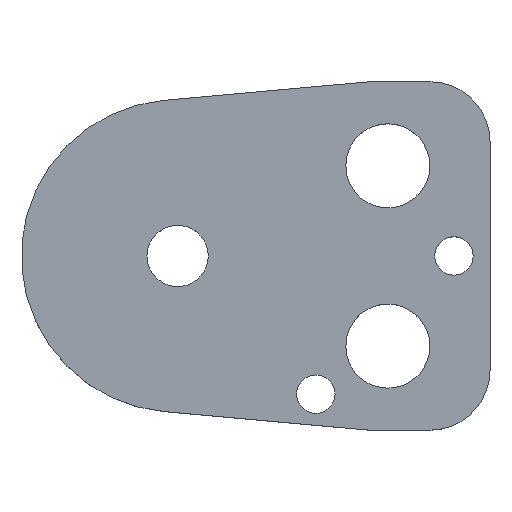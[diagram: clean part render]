
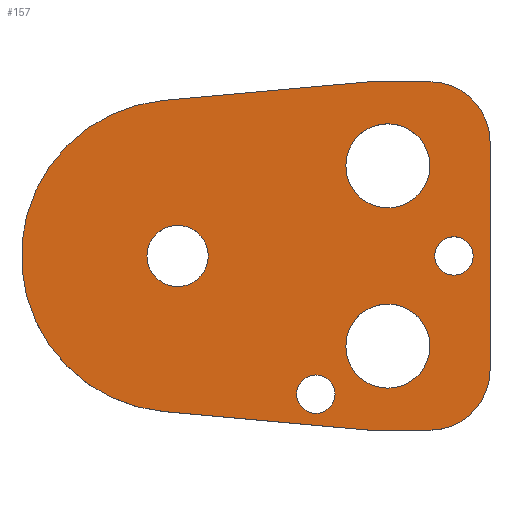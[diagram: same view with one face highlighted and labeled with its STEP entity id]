
A CAD part, top view. The second image highlights one B-rep face of the part: STEP entity #157.
In plain terms, the highlighted planar face has unit normal (0, 0, 1).
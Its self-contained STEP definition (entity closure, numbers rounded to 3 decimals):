
#103=FACE_BOUND('',#207,.T.);
#104=FACE_BOUND('',#208,.T.);
#105=FACE_BOUND('',#209,.T.);
#106=FACE_BOUND('',#210,.T.);
#107=FACE_BOUND('',#211,.T.);
#108=FACE_BOUND('',#212,.T.);
#122=CIRCLE('',#480,10.);
#124=CIRCLE('',#484,10.);
#127=CIRCLE('',#490,26.);
#138=CIRCLE('',#503,3.2);
#139=CIRCLE('',#504,3.2);
#140=CIRCLE('',#505,7.);
#141=CIRCLE('',#506,7.);
#142=CIRCLE('',#507,7.);
#143=CIRCLE('',#508,7.);
#144=CIRCLE('',#509,3.2);
#145=CIRCLE('',#510,3.2);
#146=CIRCLE('',#511,5.1);
#147=CIRCLE('',#512,5.1);
#157=ADVANCED_FACE('',(#103,#104,#105,#106,#107,#108),#174,.T.);
#174=PLANE('',#513);
#207=EDGE_LOOP('',(#273,#274,#275,#276,#277,#278,#279,#280));
#208=EDGE_LOOP('',(#281,#282));
#209=EDGE_LOOP('',(#283,#284));
#210=EDGE_LOOP('',(#285,#286));
#211=EDGE_LOOP('',(#287,#288));
#212=EDGE_LOOP('',(#289,#290));
#273=ORIENTED_EDGE('',*,*,#368,.T.);
#274=ORIENTED_EDGE('',*,*,#372,.T.);
#275=ORIENTED_EDGE('',*,*,#375,.T.);
#276=ORIENTED_EDGE('',*,*,#378,.T.);
#277=ORIENTED_EDGE('',*,*,#381,.T.);
#278=ORIENTED_EDGE('',*,*,#384,.T.);
#279=ORIENTED_EDGE('',*,*,#387,.T.);
#280=ORIENTED_EDGE('',*,*,#390,.T.);
#281=ORIENTED_EDGE('',*,*,#401,.T.);
#282=ORIENTED_EDGE('',*,*,#402,.T.);
#283=ORIENTED_EDGE('',*,*,#403,.T.);
#284=ORIENTED_EDGE('',*,*,#404,.T.);
#285=ORIENTED_EDGE('',*,*,#405,.T.);
#286=ORIENTED_EDGE('',*,*,#406,.T.);
#287=ORIENTED_EDGE('',*,*,#407,.T.);
#288=ORIENTED_EDGE('',*,*,#408,.T.);
#289=ORIENTED_EDGE('',*,*,#409,.T.);
#290=ORIENTED_EDGE('',*,*,#410,.T.);
#332=VERTEX_POINT('',#649);
#333=VERTEX_POINT('',#651);
#336=VERTEX_POINT('',#658);
#338=VERTEX_POINT('',#664);
#340=VERTEX_POINT('',#670);
#342=VERTEX_POINT('',#676);
#344=VERTEX_POINT('',#682);
#346=VERTEX_POINT('',#688);
#357=VERTEX_POINT('',#717);
#358=VERTEX_POINT('',#718);
#359=VERTEX_POINT('',#721);
#360=VERTEX_POINT('',#722);
#361=VERTEX_POINT('',#725);
#362=VERTEX_POINT('',#726);
#363=VERTEX_POINT('',#729);
#364=VERTEX_POINT('',#730);
#365=VERTEX_POINT('',#733);
#366=VERTEX_POINT('',#734);
#368=EDGE_CURVE('',#333,#332,#422,.T.);
#372=EDGE_CURVE('',#332,#336,#426,.T.);
#375=EDGE_CURVE('',#336,#338,#122,.T.);
#378=EDGE_CURVE('',#338,#340,#430,.T.);
#381=EDGE_CURVE('',#340,#342,#124,.T.);
#384=EDGE_CURVE('',#342,#344,#434,.T.);
#387=EDGE_CURVE('',#344,#346,#437,.T.);
#390=EDGE_CURVE('',#346,#333,#127,.T.);
#401=EDGE_CURVE('',#357,#358,#138,.T.);
#402=EDGE_CURVE('',#358,#357,#139,.T.);
#403=EDGE_CURVE('',#359,#360,#140,.T.);
#404=EDGE_CURVE('',#360,#359,#141,.T.);
#405=EDGE_CURVE('',#361,#362,#142,.T.);
#406=EDGE_CURVE('',#362,#361,#143,.T.);
#407=EDGE_CURVE('',#363,#364,#144,.T.);
#408=EDGE_CURVE('',#364,#363,#145,.T.);
#409=EDGE_CURVE('',#365,#366,#146,.T.);
#410=EDGE_CURVE('',#366,#365,#147,.T.);
#422=LINE('',#650,#450);
#426=LINE('',#659,#454);
#430=LINE('',#671,#458);
#434=LINE('',#683,#462);
#437=LINE('',#689,#465);
#450=VECTOR('',#527,1.);
#454=VECTOR('',#533,1.);
#458=VECTOR('',#545,1.);
#462=VECTOR('',#557,1.);
#465=VECTOR('',#562,1.);
#480=AXIS2_PLACEMENT_3D('',#665,#538,#539);
#484=AXIS2_PLACEMENT_3D('',#677,#550,#551);
#490=AXIS2_PLACEMENT_3D('',#693,#568,#569);
#503=AXIS2_PLACEMENT_3D('',#716,#594,#595);
#504=AXIS2_PLACEMENT_3D('',#719,#596,#597);
#505=AXIS2_PLACEMENT_3D('',#720,#598,#599);
#506=AXIS2_PLACEMENT_3D('',#723,#600,#601);
#507=AXIS2_PLACEMENT_3D('',#724,#602,#603);
#508=AXIS2_PLACEMENT_3D('',#727,#604,#605);
#509=AXIS2_PLACEMENT_3D('',#728,#606,#607);
#510=AXIS2_PLACEMENT_3D('',#731,#608,#609);
#511=AXIS2_PLACEMENT_3D('',#732,#610,#611);
#512=AXIS2_PLACEMENT_3D('',#735,#612,#613);
#513=AXIS2_PLACEMENT_3D('',#736,#614,#615);
#527=DIRECTION('',(0.996,-0.09,0.));
#533=DIRECTION('',(1.,0.,0.));
#538=DIRECTION('',(0.,0.,1.));
#539=DIRECTION('',(-0.707,0.707,0.));
#545=DIRECTION('',(0.,1.,0.));
#550=DIRECTION('',(0.,0.,1.));
#551=DIRECTION('',(-0.707,-0.707,0.));
#557=DIRECTION('',(-1.,0.,0.));
#562=DIRECTION('',(-0.996,-0.09,0.));
#568=DIRECTION('',(0.,0.,1.));
#569=DIRECTION('',(1.,0.,0.));
#594=DIRECTION('',(0.,0.,-1.));
#595=DIRECTION('',(-1.,0.,0.));
#596=DIRECTION('',(0.,0.,-1.));
#597=DIRECTION('',(1.,0.,0.));
#598=DIRECTION('',(0.,0.,-1.));
#599=DIRECTION('',(-1.,0.,0.));
#600=DIRECTION('',(0.,0.,-1.));
#601=DIRECTION('',(1.,0.,0.));
#602=DIRECTION('',(0.,0.,-1.));
#603=DIRECTION('',(-1.,0.,0.));
#604=DIRECTION('',(0.,0.,-1.));
#605=DIRECTION('',(1.,0.,0.));
#606=DIRECTION('',(0.,0.,-1.));
#607=DIRECTION('',(-1.,0.,0.));
#608=DIRECTION('',(0.,0.,-1.));
#609=DIRECTION('',(1.,0.,0.));
#610=DIRECTION('',(0.,0.,-1.));
#611=DIRECTION('',(-1.,0.,0.));
#612=DIRECTION('',(0.,0.,-1.));
#613=DIRECTION('',(1.,0.,0.));
#614=DIRECTION('',(0.,0.,1.));
#615=DIRECTION('',(0.996,-0.09,0.));
#649=CARTESIAN_POINT('',(32.,-29.,8.));
#650=CARTESIAN_POINT('',(32.,-29.,8.));
#651=CARTESIAN_POINT('',(-2.342,-25.894,8.));
#658=CARTESIAN_POINT('',(42.,-29.,8.));
#659=CARTESIAN_POINT('',(32.,-29.,8.));
#664=CARTESIAN_POINT('',(52.,-19.,8.));
#665=CARTESIAN_POINT('',(42.,-19.,8.));
#670=CARTESIAN_POINT('',(52.,19.,8.));
#671=CARTESIAN_POINT('',(52.,19.,8.));
#676=CARTESIAN_POINT('',(42.,29.,8.));
#677=CARTESIAN_POINT('',(42.,19.,8.));
#682=CARTESIAN_POINT('',(32.,29.,8.));
#683=CARTESIAN_POINT('',(32.,29.,8.));
#688=CARTESIAN_POINT('',(-2.342,25.894,8.));
#689=CARTESIAN_POINT('',(32.,29.,8.));
#693=CARTESIAN_POINT('',(0.,0.,8.));
#716=CARTESIAN_POINT('',(46.,0.,8.));
#717=CARTESIAN_POINT('',(46.,3.2,8.));
#718=CARTESIAN_POINT('',(46.,-3.2,8.));
#719=CARTESIAN_POINT('',(46.,0.,8.));
#720=CARTESIAN_POINT('',(35.,15.,8.));
#721=CARTESIAN_POINT('',(35.,22.,8.));
#722=CARTESIAN_POINT('',(35.,8.,8.));
#723=CARTESIAN_POINT('',(35.,15.,8.));
#724=CARTESIAN_POINT('',(35.,-15.,8.));
#725=CARTESIAN_POINT('',(35.,-8.,8.));
#726=CARTESIAN_POINT('',(35.,-22.,8.));
#727=CARTESIAN_POINT('',(35.,-15.,8.));
#728=CARTESIAN_POINT('',(23.,-23.,8.));
#729=CARTESIAN_POINT('',(23.,-19.8,8.));
#730=CARTESIAN_POINT('',(23.,-26.2,8.));
#731=CARTESIAN_POINT('',(23.,-23.,8.));
#732=CARTESIAN_POINT('',(0.,0.,8.));
#733=CARTESIAN_POINT('',(0.,5.1,8.));
#734=CARTESIAN_POINT('',(0.,-5.1,8.));
#735=CARTESIAN_POINT('',(0.,0.,8.));
#736=CARTESIAN_POINT('',(-2.342,-25.894,8.));
